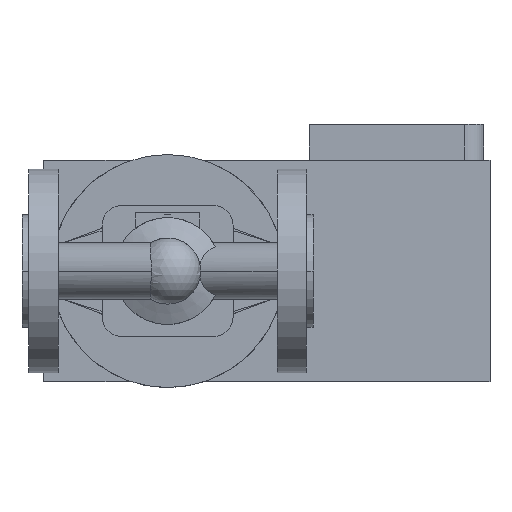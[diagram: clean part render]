
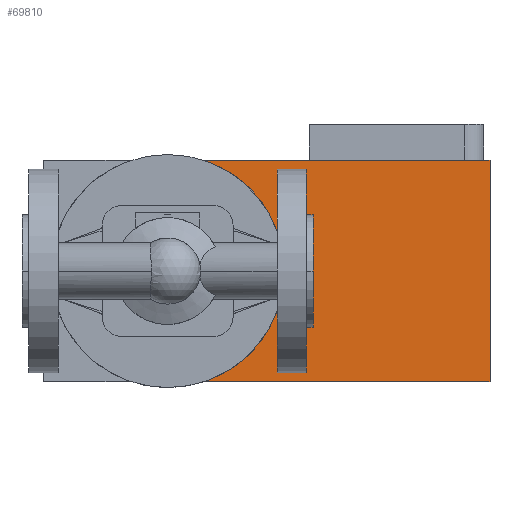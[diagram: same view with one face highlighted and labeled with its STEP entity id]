
A CAD part, front view. The second image highlights one B-rep face of the part: STEP entity #69810.
In plain terms, the highlighted planar face has unit normal (0, -1, 0).
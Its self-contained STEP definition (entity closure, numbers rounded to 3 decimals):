
#66350=CARTESIAN_POINT('',(-28.5,228.,32.));
#66360=DIRECTION('',(0.,1.,-0.));
#66370=DIRECTION('',(-1.,0.,0.));
#66380=AXIS2_PLACEMENT_3D('',#66350,#66360,#66370);
#66390=PLANE('',#66380);
#66400=CARTESIAN_POINT('',(-64.,228.,-25.));
#66410=DIRECTION('',(1.,0.,0.));
#66420=VECTOR('',#66410,1.);
#66430=LINE('',#66400,#66420);
#66580=CARTESIAN_POINT('',(-64.,228.,89.));
#66590=DIRECTION('',(1.,0.,0.));
#66600=VECTOR('',#66590,1.);
#66610=LINE('',#66580,#66600);
#66660=CARTESIAN_POINT('',(0.,228.,32.));
#66670=DIRECTION('',(0.,-1.,0.));
#66680=DIRECTION('',(-1.,0.,0.));
#66690=AXIS2_PLACEMENT_3D('',#66660,#66670,#66680);
#66700=CIRCLE('',#66690,60.);
#66890=CARTESIAN_POINT('',(18.735,228.,-25.));
#66900=VERTEX_POINT('',#66890);
#66950=CARTESIAN_POINT('',(166.,228.,-25.));
#66960=VERTEX_POINT('',#66950);
#66970=EDGE_CURVE('',#66900,#66960,#66430,.T.);
#68270=CARTESIAN_POINT('',(166.,228.,89.));
#68280=VERTEX_POINT('',#68270);
#68310=CARTESIAN_POINT('',(18.735,228.,89.));
#68320=VERTEX_POINT('',#68310);
#68330=EDGE_CURVE('',#68320,#68280,#66610,.T.);
#69580=CARTESIAN_POINT('',(60.,228.,32.));
#69590=VERTEX_POINT('',#69580);
#69600=EDGE_CURVE('',#69590,#68320,#66700,.T.);
#69680=ORIENTED_EDGE('',*,*,#68330,.F.);
#69690=CARTESIAN_POINT('',(166.,228.,32.));
#69700=DIRECTION('',(0.,0.,-1.));
#69710=VECTOR('',#69700,1.);
#69720=LINE('',#69690,#69710);
#69730=EDGE_CURVE('',#68280,#66960,#69720,.T.);
#69740=ORIENTED_EDGE('',*,*,#69730,.F.);
#69750=ORIENTED_EDGE('',*,*,#66970,.T.);
#69760=EDGE_CURVE('',#66900,#69590,#66700,.T.);
#69770=ORIENTED_EDGE('',*,*,#69760,.F.);
#69780=ORIENTED_EDGE('',*,*,#69600,.F.);
#69790=EDGE_LOOP('',(#69780,#69770,#69750,#69740,#69680));
#69800=FACE_OUTER_BOUND('',#69790,.T.);
#69810=ADVANCED_FACE('',(#69800),#66390,.F.);
